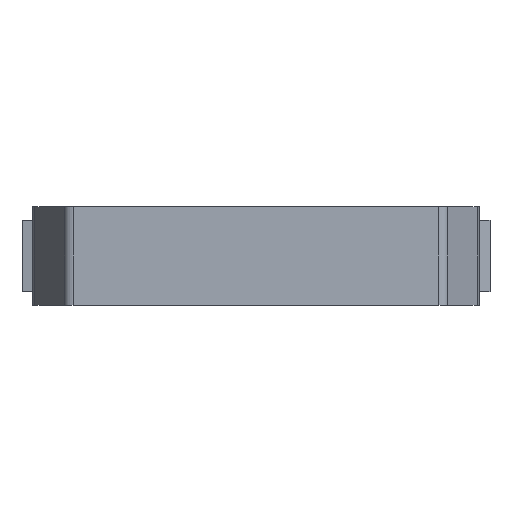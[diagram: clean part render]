
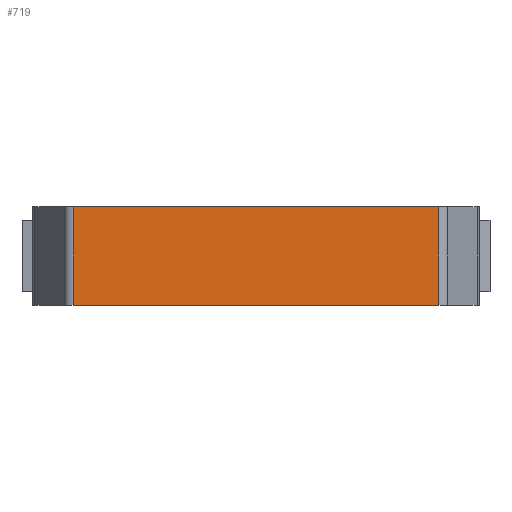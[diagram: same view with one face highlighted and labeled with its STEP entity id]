
A CAD part, front view. The second image highlights one B-rep face of the part: STEP entity #719.
In plain terms, the highlighted planar face has unit normal (0, -1, 0).
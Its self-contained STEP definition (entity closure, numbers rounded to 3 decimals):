
#116 = FACE_OUTER_BOUND ( 'NONE', #927, .T. ) ;
#145 = VECTOR ( 'NONE', #2173, 1000. ) ;
#148 = LINE ( 'NONE', #2174, #145 ) ;
#201 = VECTOR ( 'NONE', #1648, 1000. ) ;
#204 = LINE ( 'NONE', #1652, #201 ) ;
#255 = VECTOR ( 'NONE', #1996, 1000. ) ;
#257 = LINE ( 'NONE', #2017, #255 ) ;
#280 = EDGE_CURVE ( 'NONE', #1499, #1272, #1487, .T. ) ;
#348 = AXIS2_PLACEMENT_3D ( 'NONE', #2008, #2000, #1999 ) ;
#523 = EDGE_CURVE ( 'NONE', #1272, #1281, #257, .T. ) ;
#553 = EDGE_CURVE ( 'NONE', #1493, #1281, #204, .T. ) ;
#584 = EDGE_CURVE ( 'NONE', #1499, #1493, #148, .T. ) ;
#719 = ADVANCED_FACE ( 'NONE', ( #116 ), #2002, .F. ) ;
#927 = EDGE_LOOP ( 'NONE', ( #1030, #1032, #1034, #1036 ) ) ;
#1030 = ORIENTED_EDGE ( 'NONE', *, *, #553, .T. ) ;
#1032 = ORIENTED_EDGE ( 'NONE', *, *, #523, .F. ) ;
#1034 = ORIENTED_EDGE ( 'NONE', *, *, #280, .F. ) ;
#1036 = ORIENTED_EDGE ( 'NONE', *, *, #584, .T. ) ;
#1258 = VECTOR ( 'NONE', #2291, 1000. ) ;
#1272 = VERTEX_POINT ( 'NONE', #1694 ) ;
#1281 = VERTEX_POINT ( 'NONE', #1681 ) ;
#1487 = LINE ( 'NONE', #2296, #1258 ) ;
#1493 = VERTEX_POINT ( 'NONE', #1629 ) ;
#1499 = VERTEX_POINT ( 'NONE', #1636 ) ;
#1629 = CARTESIAN_POINT ( 'NONE',  ( -18.423, -8.946, -4.95 ) ) ;
#1636 = CARTESIAN_POINT ( 'NONE',  ( -18.423, -8.946, 4.95 ) ) ;
#1648 = DIRECTION ( 'NONE',  ( 1., 0., 0. ) ) ;
#1652 = CARTESIAN_POINT ( 'NONE',  ( -18.423, -8.946, -4.95 ) ) ;
#1681 = CARTESIAN_POINT ( 'NONE',  ( 18.423, -8.946, -4.95 ) ) ;
#1694 = CARTESIAN_POINT ( 'NONE',  ( 18.423, -8.946, 4.95 ) ) ;
#1996 = DIRECTION ( 'NONE',  ( 0., 0., -1. ) ) ;
#1999 = DIRECTION ( 'NONE',  ( -1., 0., 0. ) ) ;
#2000 = DIRECTION ( 'NONE',  ( 0., 1., 0. ) ) ;
#2002 = PLANE ( 'NONE',  #348 ) ;
#2008 = CARTESIAN_POINT ( 'NONE',  ( -18.423, -8.946, 4.95 ) ) ;
#2017 = CARTESIAN_POINT ( 'NONE',  ( 18.423, -8.946, 4.95 ) ) ;
#2173 = DIRECTION ( 'NONE',  ( 0., 0., -1. ) ) ;
#2174 = CARTESIAN_POINT ( 'NONE',  ( -18.423, -8.946, 4.95 ) ) ;
#2291 = DIRECTION ( 'NONE',  ( 1., 0., 0. ) ) ;
#2296 = CARTESIAN_POINT ( 'NONE',  ( -18.423, -8.946, 4.95 ) ) ;
